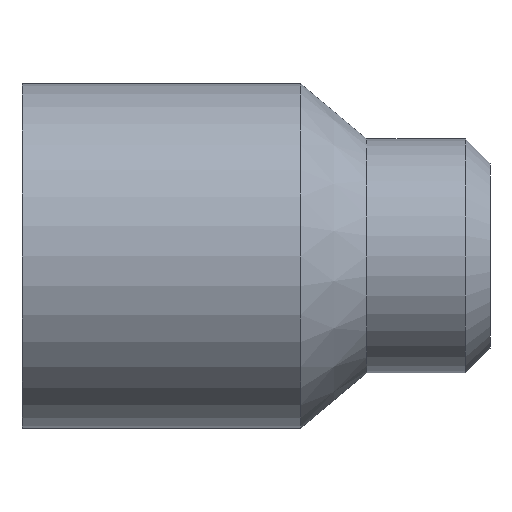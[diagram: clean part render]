
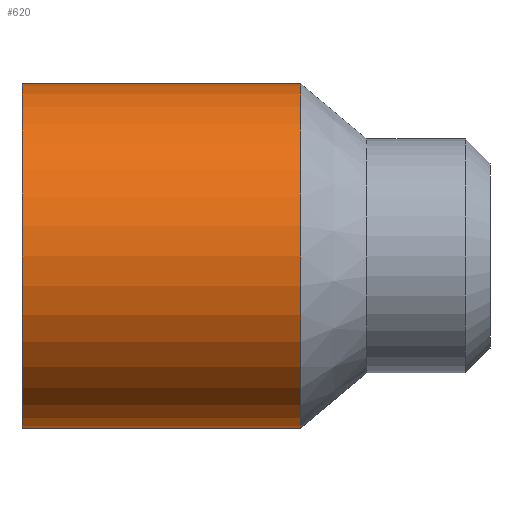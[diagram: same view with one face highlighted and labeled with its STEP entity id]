
A CAD part, front view. The second image highlights one B-rep face of the part: STEP entity #620.
In plain terms, the highlighted cylindrical face has radius 14 mm (diameter 28 mm), a partial arc.
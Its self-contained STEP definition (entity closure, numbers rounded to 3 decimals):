
#32=CARTESIAN_POINT('',(55.5,0.,60.52));
#33=VERTEX_POINT('',#32);
#42=CARTESIAN_POINT('',(55.5,-0.,32.52));
#43=VERTEX_POINT('',#42);
#51=CARTESIAN_POINT('',(55.5,0.,46.52));
#52=DIRECTION('',(1.,0.,0.));
#53=DIRECTION('',(0.,0.,-1.));
#54=AXIS2_PLACEMENT_3D('',#51,#52,#53);
#55=CIRCLE('',#54,14.);
#56=EDGE_CURVE('',#33,#43,#55,.T.);
#443=CARTESIAN_POINT('',(78.137,0.,60.52));
#444=VERTEX_POINT('',#443);
#460=CARTESIAN_POINT('',(78.137,-0.,32.52));
#461=VERTEX_POINT('',#460);
#462=CARTESIAN_POINT('',(78.137,0.,46.52));
#463=DIRECTION('',(1.,0.,0.));
#464=DIRECTION('',(0.,0.,-1.));
#465=AXIS2_PLACEMENT_3D('',#462,#463,#464);
#466=CIRCLE('',#465,14.);
#467=EDGE_CURVE('',#444,#461,#466,.T.);
#484=CARTESIAN_POINT('',(78.137,0.,32.52));
#485=DIRECTION('',(-1.,-0.,0.));
#486=VECTOR('',#485,22.637);
#487=LINE('',#484,#486);
#488=EDGE_CURVE('',#461,#43,#487,.T.);
#491=CARTESIAN_POINT('',(78.137,0.,60.52));
#492=DIRECTION('',(-1.,0.,0.));
#493=VECTOR('',#492,22.637);
#494=LINE('',#491,#493);
#495=EDGE_CURVE('',#444,#33,#494,.T.);
#609=CARTESIAN_POINT('',(93.5,0.,46.52));
#610=DIRECTION('',(1.,0.,0.));
#611=DIRECTION('',(0.,0.,-1.));
#612=AXIS2_PLACEMENT_3D('',#609,#610,#611);
#613=CYLINDRICAL_SURFACE('',#612,14.);
#614=ORIENTED_EDGE('',*,*,#488,.F.);
#615=ORIENTED_EDGE('',*,*,#467,.F.);
#616=ORIENTED_EDGE('',*,*,#495,.T.);
#617=ORIENTED_EDGE('',*,*,#56,.T.);
#618=EDGE_LOOP('',(#614,#615,#616,#617));
#619=FACE_BOUND('',#618,.T.);
#620=ADVANCED_FACE('',(#619),#613,.T.);
